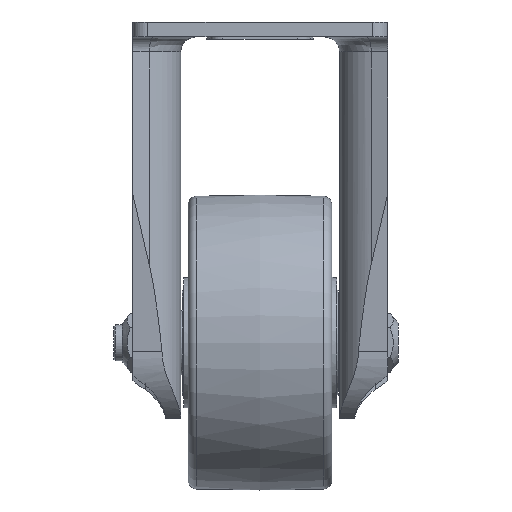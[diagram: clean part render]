
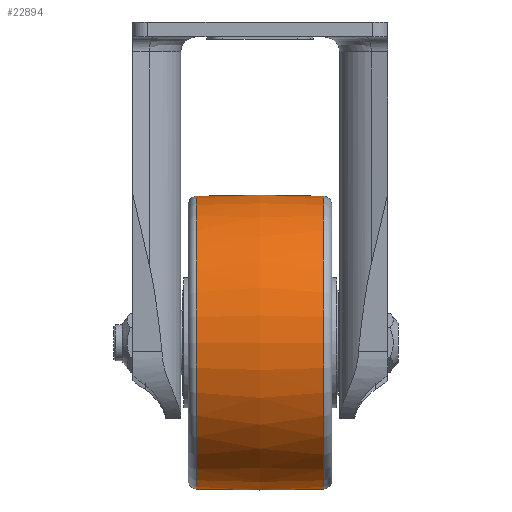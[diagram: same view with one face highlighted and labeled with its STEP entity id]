
A CAD part, left-side view. The second image highlights one B-rep face of the part: STEP entity #22894.
In plain terms, the highlighted free-form (B-spline) face has degree [2, 2] with [3, 9] control points.
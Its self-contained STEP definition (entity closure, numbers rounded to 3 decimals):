
#22833=CARTESIAN_POINT('',(-48.86,10.249,0.));
#22834=VERTEX_POINT('',#22833);
#22835=CARTESIAN_POINT('',(0.,10.249,0.));
#22836=DIRECTION('',(0.0,-1.0,0.0));
#22837=DIRECTION('',(-1.0,0.0,0.0));
#22838=AXIS2_PLACEMENT_3D('',#22835,#22836,#22837);
#22839=CIRCLE('',#22838,48.86);
#22840=EDGE_CURVE('',#22834,#22834,#22839,.T.);
#22845=CARTESIAN_POINT('',(0.,10.249,48.86));
#22846=CARTESIAN_POINT('',(0.,31.568,51.146));
#22847=CARTESIAN_POINT('',(0.,52.888,48.86));
#22848=CARTESIAN_POINT('',(-48.86,10.249,48.86));
#22849=CARTESIAN_POINT('',(-51.146,31.568,51.146));
#22850=CARTESIAN_POINT('',(-48.86,52.888,48.86));
#22851=CARTESIAN_POINT('',(-48.86,10.249,0.));
#22852=CARTESIAN_POINT('',(-51.146,31.568,0.));
#22853=CARTESIAN_POINT('',(-48.86,52.888,0.));
#22854=CARTESIAN_POINT('',(-48.86,10.249,-48.86));
#22855=CARTESIAN_POINT('',(-51.146,31.568,-51.146));
#22856=CARTESIAN_POINT('',(-48.86,52.888,-48.86));
#22857=CARTESIAN_POINT('',(0.,10.249,-48.86));
#22858=CARTESIAN_POINT('',(0.,31.568,-51.146));
#22859=CARTESIAN_POINT('',(0.,52.888,-48.86));
#22860=CARTESIAN_POINT('',(48.86,10.249,-48.86));
#22861=CARTESIAN_POINT('',(51.146,31.568,-51.146));
#22862=CARTESIAN_POINT('',(48.86,52.888,-48.86));
#22863=CARTESIAN_POINT('',(48.86,10.249,0.));
#22864=CARTESIAN_POINT('',(51.146,31.568,0.));
#22865=CARTESIAN_POINT('',(48.86,52.888,0.));
#22866=CARTESIAN_POINT('',(48.86,10.249,48.86));
#22867=CARTESIAN_POINT('',(51.146,31.568,51.146));
#22868=CARTESIAN_POINT('',(48.86,52.888,48.86));
#22869=CARTESIAN_POINT('',(0.,10.249,48.86));
#22870=CARTESIAN_POINT('',(0.,31.568,51.146));
#22871=CARTESIAN_POINT('',(0.,52.888,48.86));
#22879=(BOUNDED_SURFACE()B_SPLINE_SURFACE(2,2,((#22845,#22848,#22851,#22854,#22857,#22860,#22863,#22866,#22869),(#22846,#22849,#22852,#22855,#22858,#22861,#22864,#22867,#22870),(#22847,#22850,#22853,#22856,#22859,#22862,#22865,#22868,#22871)),.UNSPECIFIED.,.F.,.T.,.U.)B_SPLINE_SURFACE_WITH_KNOTS((3,3),(3,2,2,2,3),(-0.107,0.107),(0.0,1.571,3.142,4.712,6.283),.UNSPECIFIED.)GEOMETRIC_REPRESENTATION_ITEM()RATIONAL_B_SPLINE_SURFACE(((1.0,0.707,1.0,0.707,1.0,0.707,1.0,0.707,1.0),(0.994,0.703,0.994,0.703,0.994,0.703,0.994,0.703,0.994),(1.0,0.707,1.0,0.707,1.0,0.707,1.0,0.707,1.0)))REPRESENTATION_ITEM('')SURFACE());
#22880=ORIENTED_EDGE('',*,*,#22840,.F.);
#22881=EDGE_LOOP('',(#22880));
#22882=FACE_OUTER_BOUND('',#22881,.T.);
#22883=CARTESIAN_POINT('',(-48.86,52.888,0.));
#22884=VERTEX_POINT('',#22883);
#22885=CARTESIAN_POINT('',(0.,52.888,0.));
#22886=DIRECTION('',(0.0,-1.0,0.0));
#22887=DIRECTION('',(-1.0,0.0,0.0));
#22888=AXIS2_PLACEMENT_3D('',#22885,#22886,#22887);
#22889=CIRCLE('',#22888,48.86);
#22890=EDGE_CURVE('',#22884,#22884,#22889,.T.);
#22891=ORIENTED_EDGE('',*,*,#22890,.T.);
#22892=EDGE_LOOP('',(#22891));
#22893=FACE_BOUND('',#22892,.T.);
#22894=ADVANCED_FACE('',(#22882,#22893),#22879,.T.);
